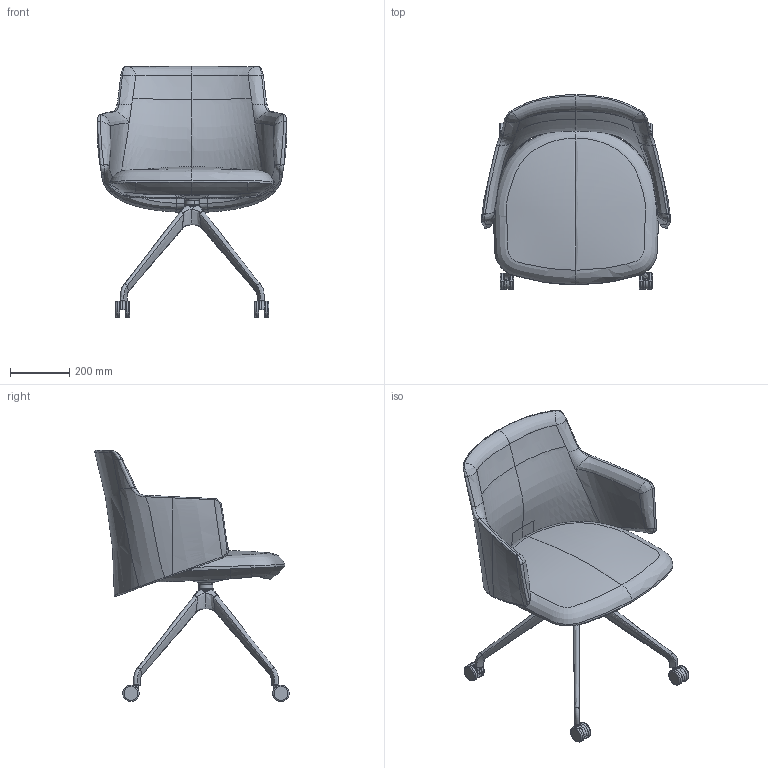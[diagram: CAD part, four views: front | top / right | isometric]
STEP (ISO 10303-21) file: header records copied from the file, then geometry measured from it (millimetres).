
FILE_DESCRIPTION(/* description */ (''),/* implementation_level */ '2;1');
FILE_NAME(/* name */ 'MELODY~1',/* time_stamp */ '2019-11-08T09:35:37+01:00',/* author */ (''),/* organization */ (''),/* preprocessor_version */ 'ST-DEVELOPER v16.5',/* originating_system */ '',/* authorisation */ '');
FILE_SCHEMA (('AUTOMOTIVE_DESIGN'));
Length unit declared in the file: millimetre
Products named in the file (1): Document
Bounding box: 641.13 x 657.46 x 849.43 mm (x, y, z)
Volume: 130518.7 mm3; surface area: 1947808.2 mm2
Topology: 5 solids, 28 shells, 297 faces, 769 edges, 467 vertices
Faces by surface type: bspline 259, plane 38
Entity records: 69967 total; most frequent: CARTESIAN_POINT 65341, ORIENTED_EDGE 1373, EDGE_CURVE 769, B_SPLINE_CURVE_WITH_KNOTS 611, VERTEX_POINT 467, ADVANCED_FACE 297, FACE_OUTER_BOUND 297, EDGE_LOOP 297
